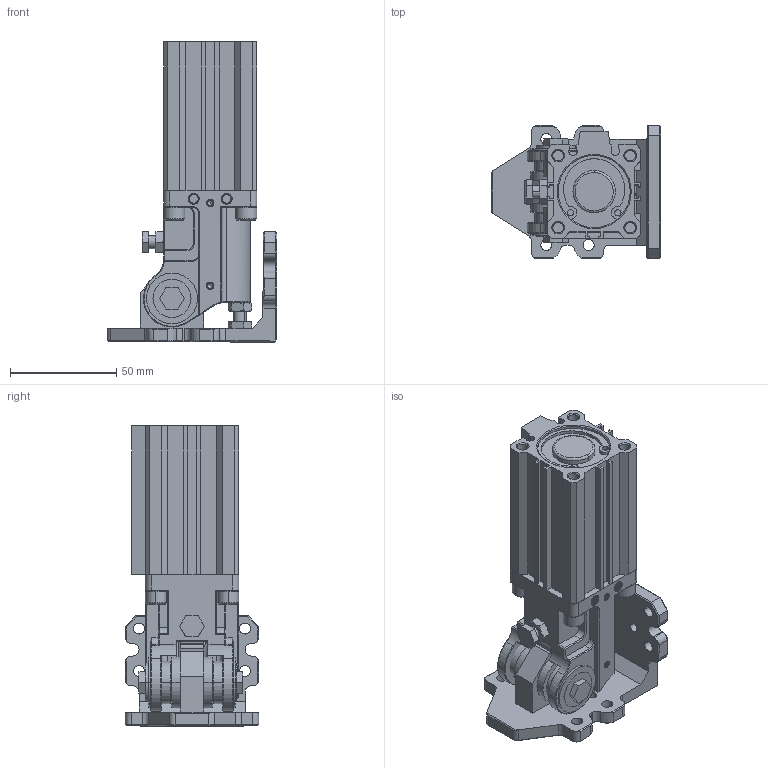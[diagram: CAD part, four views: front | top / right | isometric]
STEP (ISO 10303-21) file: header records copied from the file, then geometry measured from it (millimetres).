
FILE_DESCRIPTION(/* description */ (''),/* implementation_level */ '2;1');
FILE_NAME(/* name */ 'DHR2C-32M30PPV-ZG-LB.stp',/* time_stamp */ '2025-04-09T11:09:20+08:00',/* author */ (''),/* organization */ (''),/* preprocessor_version */ 'ST-DEVELOPER v15',/* originating_system */ 'SIEMENS PLM Software NX 10.0',/* authorisation */ '');
FILE_SCHEMA (('AP203_CONFIGURATION_CONTROLLED_3D_DESIGN_OF_MECHANICAL_PARTS_AND_ASSEMBLIES_MIM_LF { 1 0 10303 403 2 1 2}'));
Products named in the file (1): Admi00C8E5C0fdk4
Bounding box: 80.08 x 63.01 x 141.57 mm (x, y, z)
Volume: 232821 mm3; surface area: 85697.1 mm2
Topology: 26 solids, 26 shells, 1166 faces, 2889 edges, 1821 vertices
Faces by surface type: plane 554, cylinder 329, cone 247, bspline 32, torus 4
Full cylindrical faces by diameter (mm): 4 x2, 5 x16, 6.5 x4, 8 x2, 10 x2, 15 x2, 16 x1, 20.5 x1
Entity records: 66944 total; most frequent: CARTESIAN_POINT 39767, DIRECTION 5642, ORIENTED_EDGE 5522, EDGE_CURVE 2761, AXIS2_PLACEMENT_3D 1988, VERTEX_POINT 1761, LINE 1666, VECTOR 1666
